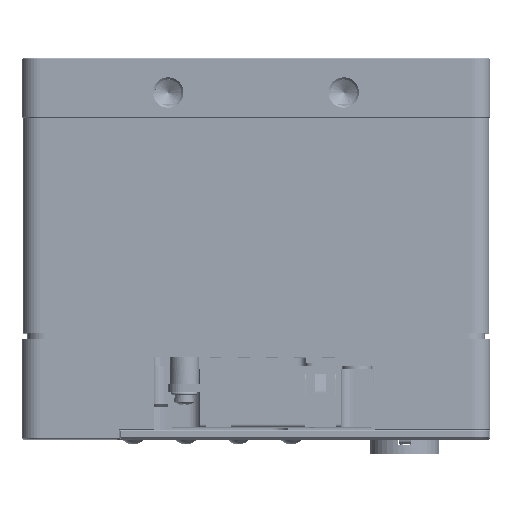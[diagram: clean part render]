
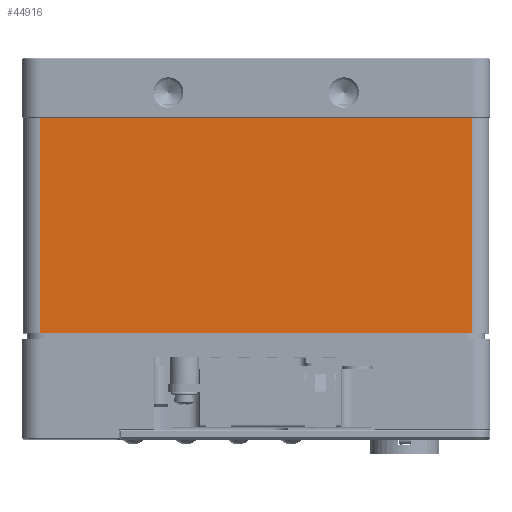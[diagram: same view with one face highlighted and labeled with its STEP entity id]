
A CAD part, top view. The second image highlights one B-rep face of the part: STEP entity #44916.
In plain terms, the highlighted planar face has unit normal (0, 0, 1).
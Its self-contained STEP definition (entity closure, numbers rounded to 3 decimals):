
#8375=DIRECTION('',(0.,1.,0.));
#8376=VECTOR('',#8375,36.75);
#8377=CARTESIAN_POINT('',(37.,-50.1,39.8));
#8378=LINE('',#8377,#8376);
#8393=DIRECTION('',(1.,0.,0.));
#8394=VECTOR('',#8393,74.);
#8395=CARTESIAN_POINT('',(-37.,-13.35,39.8));
#8396=LINE('',#8395,#8394);
#8405=DIRECTION('',(-1.,0.,0.));
#8406=VECTOR('',#8405,74.);
#8407=CARTESIAN_POINT('',(37.,-50.1,39.8));
#8408=LINE('',#8407,#8406);
#8409=DIRECTION('',(0.,-1.,0.));
#8410=VECTOR('',#8409,36.75);
#8411=CARTESIAN_POINT('',(-37.,-13.35,39.8));
#8412=LINE('',#8411,#8410);
#29149=CARTESIAN_POINT('',(-37.,-50.1,39.8));
#29150=VERTEX_POINT('',#29149);
#29151=CARTESIAN_POINT('',(37.,-50.1,39.8));
#29152=VERTEX_POINT('',#29151);
#29665=CARTESIAN_POINT('',(37.,-13.35,39.8));
#29666=VERTEX_POINT('',#29665);
#29667=CARTESIAN_POINT('',(-37.,-13.35,39.8));
#29668=VERTEX_POINT('',#29667);
#44904=CARTESIAN_POINT('',(-40.,0.,39.8));
#44905=DIRECTION('',(0.,0.,1.));
#44906=DIRECTION('',(1.,0.,0.));
#44907=AXIS2_PLACEMENT_3D('',#44904,#44905,#44906);
#44908=PLANE('',#44907);
#44909=ORIENTED_EDGE('',*,*,#44894,.T.);
#44910=ORIENTED_EDGE('',*,*,#44870,.F.);
#44911=ORIENTED_EDGE('',*,*,#43634,.T.);
#44913=ORIENTED_EDGE('',*,*,#44912,.F.);
#44914=EDGE_LOOP('',(#44909,#44910,#44911,#44913));
#44915=FACE_OUTER_BOUND('',#44914,.F.);
#44916=ADVANCED_FACE('',(#44915),#44908,.T.);
#43634=EDGE_CURVE('',#29152,#29150,#8408,.T.);
#44870=EDGE_CURVE('',#29152,#29666,#8378,.T.);
#44894=EDGE_CURVE('',#29668,#29666,#8396,.T.);
#44912=EDGE_CURVE('',#29668,#29150,#8412,.T.);
